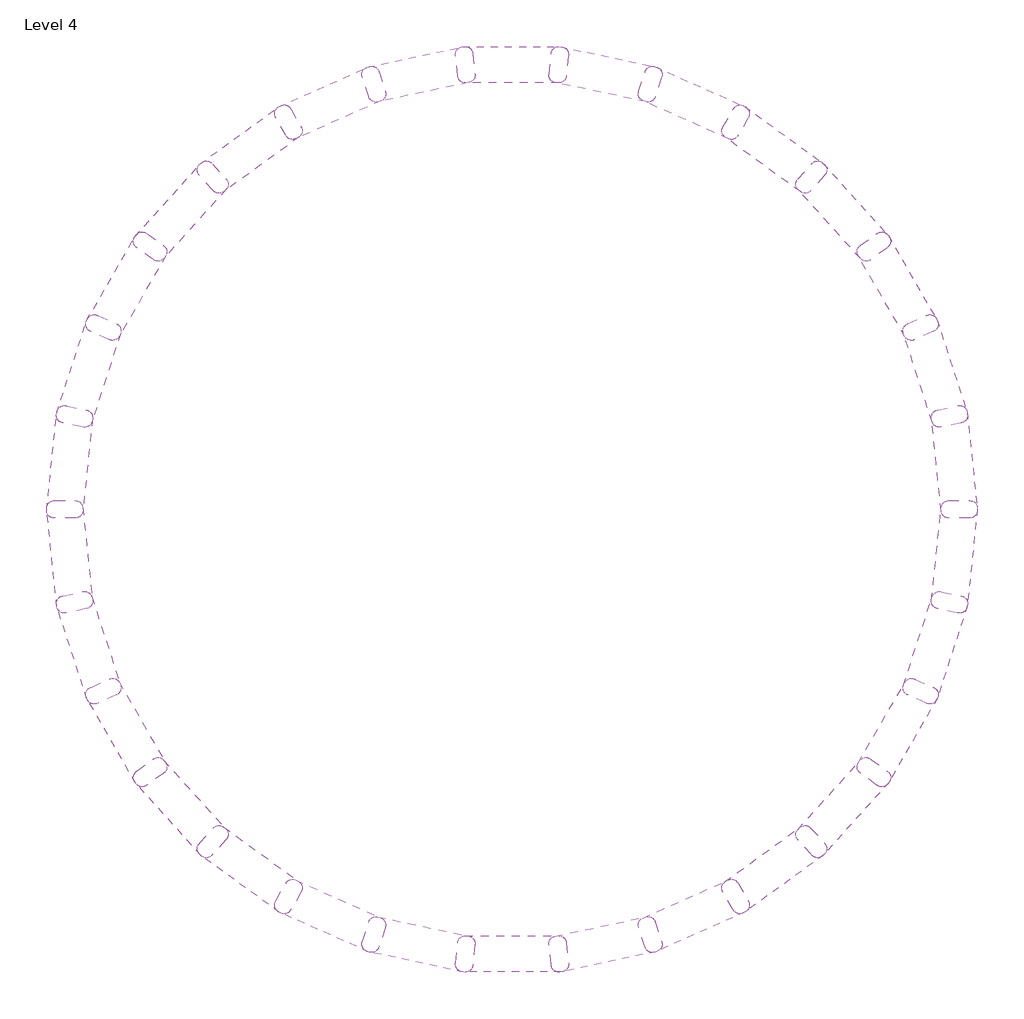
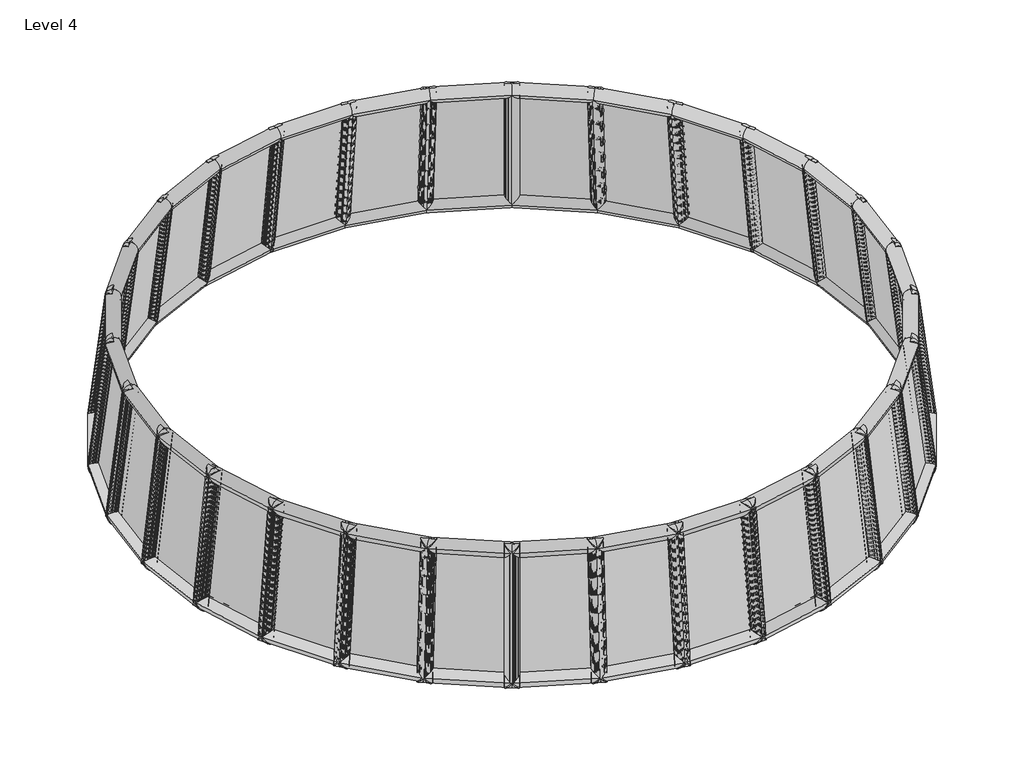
# One storey: 30 plates.
"""IFC4 building model written with IfcOpenShell, lengths in millimetres."""

from ifc_helpers import new_model, si_unit, origin, place, context, project, spatial, transform, mapped, element, save
from components import curtainpanel_curtainpanel_0c149168

model = new_model("IFC4")

# Units and contexts
model_context = context("Model", 3, world=origin())
ifc_project = project(units=[si_unit("LENGTHUNIT", "METRE", prefix="MILLI")], contexts=[model_context])

# Site, building, storey
site = spatial("IfcSite", under=ifc_project)
building = spatial("IfcBuilding", under=site)
storey = spatial("IfcBuildingStorey", under=building, Name="Level 4", Elevation=12000.0)

# Plates
placement = place(None, origin())
curtainpanel_curtainpanel_shape = curtainpanel_curtainpanel_0c149168(model_context)
element("IfcPlate", 1, ObjectType="CurtainPanel : CurtainPanel", at=placement, inside=storey, context=model_context, shape_type="MappedRepresentation", body=[
    mapped(curtainpanel_curtainpanel_shape, transform((10539.5254915, -2358.5786958, 23435.7986096), x_axis=(-0.07009791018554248, 0.9623242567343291, -0.26271335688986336), y_axis=(0.13960093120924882, -0.2513059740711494, -0.957787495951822), z_axis=(-0.9877235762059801, -0.10381393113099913, -0.11672533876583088))),
])
element("IfcPlate", 2, ObjectType="CurtainPanel : CurtainPanel", at=placement, inside=storey, context=model_context, shape_type="MappedRepresentation", body=[
    mapped(curtainpanel_curtainpanel_shape, transform((10446.2026588, 2234.3300892, 23435.7986096), x_axis=(-0.455450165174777, 0.8506155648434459, -0.26271335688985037), y_axis=(0.2297471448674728, -0.17279861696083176, -0.9577874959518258), z_axis=(-0.8601054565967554, -0.4965821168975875, -0.11672533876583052))),
])
element("IfcPlate", 3, ObjectType="CurtainPanel : CurtainPanel", at=placement, inside=storey, context=model_context, shape_type="MappedRepresentation", body=[
    mapped(curtainpanel_curtainpanel_shape, transform((8492.8437076, 6392.2032314, 23435.7986096), x_axis=(-0.7620509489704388, 0.5918277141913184, -0.2627133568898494), y_axis=(0.2801679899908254, -0.06441280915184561, -0.957787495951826), z_axis=(-0.5837672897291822, -0.8034867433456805, -0.11672533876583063))),
])
element("IfcPlate", 4, ObjectType="CurtainPanel : CurtainPanel", at=placement, inside=storey, context=model_context, shape_type="MappedRepresentation", body=[
    mapped(curtainpanel_curtainpanel_shape, transform((5017.2021465, 9396.1066914, 23435.7986096), x_axis=(-0.9368862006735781, 0.2307074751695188, -0.262713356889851), y_axis=(0.28214524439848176, 0.05511055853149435, -0.9577874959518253), z_axis=(-0.20649045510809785, -0.971461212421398, -0.11672533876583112))),
])
element("IfcPlate", 5, ObjectType="CurtainPanel : CurtainPanel", at=placement, inside=storey, context=model_context, shape_type="MappedRepresentation", body=[
    mapped(curtainpanel_curtainpanel_shape, transform((620.2479765, 10726.6382713, 23435.7986096), x_axis=(-0.9497253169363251, -0.1703041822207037, -0.26271335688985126), y_axis=(0.23533702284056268, 0.1651048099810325, -0.9577874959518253), z_axis=(0.2064904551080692, -0.9714612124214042, -0.11672533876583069))),
])
element("IfcPlate", 6, ObjectType="CurtainPanel : CurtainPanel", at=placement, inside=storey, context=model_context, shape_type="MappedRepresentation", body=[
    mapped(curtainpanel_curtainpanel_shape, transform((-3937.7454812, 10153.7369736, 23435.7986096), x_axis=(-0.7983482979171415, -0.5418686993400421, -0.26271335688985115), y_axis=(0.1478368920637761, 0.24655093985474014, -0.9577874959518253), z_axis=(0.5837672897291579, -0.8034867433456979, -0.11672533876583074))),
])
element("IfcPlate", 7, ObjectType="CurtainPanel : CurtainPanel", at=placement, inside=storey, context=model_context, shape_type="MappedRepresentation", body=[
    mapped(curtainpanel_curtainpanel_shape, transform((-7868.6597499, 7776.4626372, 23435.7986096), x_axis=(-0.5089296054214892, -0.8197391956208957, -0.2627133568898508), y_axis=(0.03477441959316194, 0.2853661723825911, -0.9577874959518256), z_axis=(0.8601054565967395, -0.49658211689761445, -0.11672533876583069))),
])
element("IfcPlate", 8, ObjectType="CurtainPanel : CurtainPanel", at=placement, inside=storey, context=model_context, shape_type="MappedRepresentation", body=[
    mapped(curtainpanel_curtainpanel_shape, transform((10734.2311579, -57.2199908, 23435.7986096), x_axis=(-0.2686445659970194, 0.9267209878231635, -0.26271335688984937), y_axis=(0.18879976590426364, -0.21678966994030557, -0.9577874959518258), z_axis=(-0.9445553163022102, -0.3069046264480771, -0.11672533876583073))),
])
element("IfcPlate", 9, ObjectType="CurtainPanel : CurtainPanel", at=placement, inside=storey, context=model_context, shape_type="MappedRepresentation", body=[
    mapped(curtainpanel_curtainpanel_shape, transform((9688.0282217, 4415.9198097, 23435.7986096), x_axis=(-0.6223504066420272, 0.7373341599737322, -0.26271335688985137), y_axis=(0.26065347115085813, -0.12125543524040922, -0.9577874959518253), z_axis=(-0.7380648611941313, -0.6645565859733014, -0.1167253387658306))),
])
element("IfcPlate", 10, ObjectType="CurtainPanel : CurtainPanel", at=placement, inside=storey, context=model_context, shape_type="MappedRepresentation", body=[
    mapped(curtainpanel_curtainpanel_shape, transform((6912.8844151, 8076.8072855, 23435.7986096), x_axis=(-0.8684462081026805, 0.42045555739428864, -0.26271335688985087), y_axis=(0.287437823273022, -0.0047550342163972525, -0.9577874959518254), z_axis=(-0.4039562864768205, -0.9073006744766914, -0.11672533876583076))),
])
element("IfcPlate", 11, ObjectType="CurtainPanel : CurtainPanel", at=placement, inside=storey, context=model_context, shape_type="MappedRepresentation", body=[
    mapped(curtainpanel_curtainpanel_shape, transform((2888.6473136, 10292.4417341, 23435.7986096), x_axis=(-0.9643797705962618, 0.03087636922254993, -0.26271335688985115), y_axis=(0.2645215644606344, 0.11256755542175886, -0.9577874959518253), z_axis=(0.0, -0.9931642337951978, -0.11672533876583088))),
])
element("IfcPlate", 12, ObjectType="CurtainPanel : CurtainPanel", at=placement, inside=storey, context=model_context, shape_type="MappedRepresentation", body=[
    mapped(curtainpanel_curtainpanel_shape, transform((-1688.8559287, 10679.7198308, 23435.7986096), x_axis=(-0.8935633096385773, -0.36404162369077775, -0.26271335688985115), y_axis=(0.19586712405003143, 0.21042619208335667, -0.9577874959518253), z_axis=(0.403956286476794, -0.9073006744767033, -0.11672533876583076))),
])
element("IfcPlate", 13, ObjectType="CurtainPanel : CurtainPanel", at=placement, inside=storey, context=model_context, shape_type="MappedRepresentation", body=[
    mapped(curtainpanel_curtainpanel_shape, transform((-6028.1334162, 9171.6776744, 23435.7986096), x_axis=(-0.6682416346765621, -0.6960135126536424, -0.26271335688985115), y_axis=(0.09334547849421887, 0.27190022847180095, -0.9577874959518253), z_axis=(0.7380648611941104, -0.6645565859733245, -0.11672533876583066))),
])
element("IfcPlate", 14, ObjectType="CurtainPanel : CurtainPanel", at=placement, inside=storey, context=model_context, shape_type="MappedRepresentation", body=[
    mapped(curtainpanel_curtainpanel_shape, transform((-9378.8846499, 6029.0694539, 23435.7986096), x_axis=(-0.32737491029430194, -0.9076383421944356, -0.2627133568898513), y_axis=(-0.025316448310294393, 0.28636024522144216, -0.9577874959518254), z_axis=(0.9445553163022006, -0.30690462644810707, -0.11672533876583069))),
])
element("IfcPlate", 15, ObjectType="CurtainPanel : CurtainPanel", at=placement, inside=storey, context=model_context, shape_type="MappedRepresentation", body=[
    mapped(curtainpanel_curtainpanel_shape, transform((-10492.8040412, 4005.8675917, 23435.7986096), x_axis=(-0.13151236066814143, -0.955869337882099, -0.26271335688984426), y_axis=(-0.0843008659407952, 0.27483900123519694, -0.9577874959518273), z_axis=(0.9877235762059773, -0.1038139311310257, -0.11672533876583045))),
])
element("IfcPlate", 16, ObjectType="CurtainPanel : CurtainPanel", at=placement, inside=storey, context=model_context, shape_type="MappedRepresentation", body=[
    mapped(curtainpanel_curtainpanel_shape, transform((-11161.7343011, 1795.2806803, 23435.7986096), x_axis=(0.07009791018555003, -0.9623242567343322, -0.26271335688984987), y_axis=(-0.13960093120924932, 0.25130597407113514, -0.9577874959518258), z_axis=(0.9877235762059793, 0.10381393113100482, -0.11672533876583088))),
])
element("IfcPlate", 17, ObjectType="CurtainPanel : CurtainPanel", at=placement, inside=storey, context=model_context, shape_type="MappedRepresentation", body=[
    mapped(curtainpanel_curtainpanel_shape, transform((-11068.4114684, -2797.6281046, 23435.7986096), x_axis=(0.4554501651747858, -0.8506155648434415, -0.2627133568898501), y_axis=(-0.22974714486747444, 0.17279861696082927, -0.9577874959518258), z_axis=(0.8601054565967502, 0.4965821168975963, -0.11672533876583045))),
])
element("IfcPlate", 18, ObjectType="CurtainPanel : CurtainPanel", at=placement, inside=storey, context=model_context, shape_type="MappedRepresentation", body=[
    mapped(curtainpanel_curtainpanel_shape, transform((-9115.0525173, -6955.5012468, 23435.7986096), x_axis=(0.7620509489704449, -0.5918277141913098, -0.2627133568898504), y_axis=(-0.2801679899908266, 0.06441280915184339, -0.9577874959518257), z_axis=(0.5837672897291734, 0.8034867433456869, -0.11672533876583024))),
])
element("IfcPlate", 19, ObjectType="CurtainPanel : CurtainPanel", at=placement, inside=storey, context=model_context, shape_type="MappedRepresentation", body=[
    mapped(curtainpanel_curtainpanel_shape, transform((-5639.4109561, -9959.4047068, 23435.7986096), x_axis=(0.936886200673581, -0.2307074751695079, -0.26271335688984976), y_axis=(-0.28214524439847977, -0.055110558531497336, -0.9577874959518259), z_axis=(0.20649045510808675, 0.9714612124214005, -0.11672533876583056))),
])
element("IfcPlate", 20, ObjectType="CurtainPanel : CurtainPanel", at=placement, inside=storey, context=model_context, shape_type="MappedRepresentation", body=[
    mapped(curtainpanel_curtainpanel_shape, transform((-1242.4567862, -11289.9362867, 23435.7986096), x_axis=(0.9497253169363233, 0.1703041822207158, -0.2627133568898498), y_axis=(-0.23533702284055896, -0.16510480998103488, -0.9577874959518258), z_axis=(-0.20649045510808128, 0.9714612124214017, -0.11672533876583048))),
])
element("IfcPlate", 21, ObjectType="CurtainPanel : CurtainPanel", at=placement, inside=storey, context=model_context, shape_type="MappedRepresentation", body=[
    mapped(curtainpanel_curtainpanel_shape, transform((3315.5366716, -10717.034989, 23435.7986096), x_axis=(0.7983482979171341, 0.5418686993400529, -0.26271335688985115), y_axis=(-0.14783689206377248, -0.24655093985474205, -0.9577874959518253), z_axis=(-0.5837672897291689, 0.80348674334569, -0.11672533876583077))),
])
element("IfcPlate", 22, ObjectType="CurtainPanel : CurtainPanel", at=placement, inside=storey, context=model_context, shape_type="MappedRepresentation", body=[
    mapped(curtainpanel_curtainpanel_shape, transform((7246.4509403, -8339.7606526, 23435.7986096), x_axis=(0.5089296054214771, 0.8197391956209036, -0.2627133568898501), y_axis=(-0.03477441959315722, -0.2853661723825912, -0.9577874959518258), z_axis=(-0.8601054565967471, 0.4965821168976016, -0.1167253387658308))),
])
element("IfcPlate", 23, ObjectType="CurtainPanel : CurtainPanel", at=placement, inside=storey, context=model_context, shape_type="MappedRepresentation", body=[
    mapped(curtainpanel_curtainpanel_shape, transform((-11356.4399675, -506.0780246, 23435.7986096), x_axis=(0.2686445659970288, -0.9267209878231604, -0.2627133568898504), y_axis=(-0.18879976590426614, 0.2167896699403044, -0.9577874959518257), z_axis=(0.944555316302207, 0.3069046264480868, -0.11672533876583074))),
])
element("IfcPlate", 24, ObjectType="CurtainPanel : CurtainPanel", at=placement, inside=storey, context=model_context, shape_type="MappedRepresentation", body=[
    mapped(curtainpanel_curtainpanel_shape, transform((-10310.2370313, -4979.2178251, 23435.7986096), x_axis=(0.6223504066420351, -0.737334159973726, -0.26271335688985), y_axis=(-0.26065347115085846, 0.12125543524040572, -0.9577874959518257), z_axis=(0.7380648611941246, 0.6645565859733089, -0.11672533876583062))),
])
element("IfcPlate", 25, ObjectType="CurtainPanel : CurtainPanel", at=placement, inside=storey, context=model_context, shape_type="MappedRepresentation", body=[
    mapped(curtainpanel_curtainpanel_shape, transform((-7535.0932247, -8640.105301, 23435.7986096), x_axis=(0.8684462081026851, -0.4204555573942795, -0.26271335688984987), y_axis=(-0.287437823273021, 0.004755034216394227, -0.9577874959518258), z_axis=(0.4039562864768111, 0.9073006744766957, -0.11672533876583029))),
])
element("IfcPlate", 26, ObjectType="CurtainPanel : CurtainPanel", at=placement, inside=storey, context=model_context, shape_type="MappedRepresentation", body=[
    mapped(curtainpanel_curtainpanel_shape, transform((-3510.8561233, -10855.7397495, 23435.7986096), x_axis=(0.9643797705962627, -0.030876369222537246, -0.2627133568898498), y_axis=(-0.26452156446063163, -0.11256755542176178, -0.9577874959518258), z_axis=(0.0, 0.9931642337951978, -0.11672533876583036))),
])
element("IfcPlate", 27, ObjectType="CurtainPanel : CurtainPanel", at=placement, inside=storey, context=model_context, shape_type="MappedRepresentation", body=[
    mapped(curtainpanel_curtainpanel_shape, transform((1066.6471191, -11243.0178462, 23435.7986096), x_axis=(0.8935633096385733, 0.3640416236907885, -0.26271335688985), y_axis=(-0.1958671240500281, -0.2104261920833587, -0.9577874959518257), z_axis=(-0.4039562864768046, 0.9073006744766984, -0.11672533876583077))),
])
element("IfcPlate", 28, ObjectType="CurtainPanel : CurtainPanel", at=placement, inside=storey, context=model_context, shape_type="MappedRepresentation", body=[
    mapped(curtainpanel_curtainpanel_shape, transform((5405.9246065, -9734.9756899, 23435.7986096), x_axis=(0.6682416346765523, 0.696013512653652, -0.26271335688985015), y_axis=(-0.09334547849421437, -0.27190022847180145, -0.9577874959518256), z_axis=(-0.73806486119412, 0.664556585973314, -0.11672533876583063))),
])
element("IfcPlate", 29, ObjectType="CurtainPanel : CurtainPanel", at=placement, inside=storey, context=model_context, shape_type="MappedRepresentation", body=[
    mapped(curtainpanel_curtainpanel_shape, transform((8756.6758403, -6592.3674694, 23435.7986096), x_axis=(0.32737491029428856, 0.9076383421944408, -0.26271335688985), y_axis=(0.025316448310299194, -0.28636024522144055, -0.9577874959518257), z_axis=(-0.9445553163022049, 0.3069046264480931, -0.11672533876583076))),
])
element("IfcPlate", 30, ObjectType="CurtainPanel : CurtainPanel", at=placement, inside=storey, context=model_context, shape_type="MappedRepresentation", body=[
    mapped(curtainpanel_curtainpanel_shape, transform((9870.5952316, -4569.1656071, 23435.7986096), x_axis=(0.1315123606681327, 0.9558693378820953, -0.2627133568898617), y_axis=(0.08430086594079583, -0.2748390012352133, -0.9577874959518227), z_axis=(-0.9877235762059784, 0.1038139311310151, -0.11672533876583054))),
])

save(model, "model.ifc")
